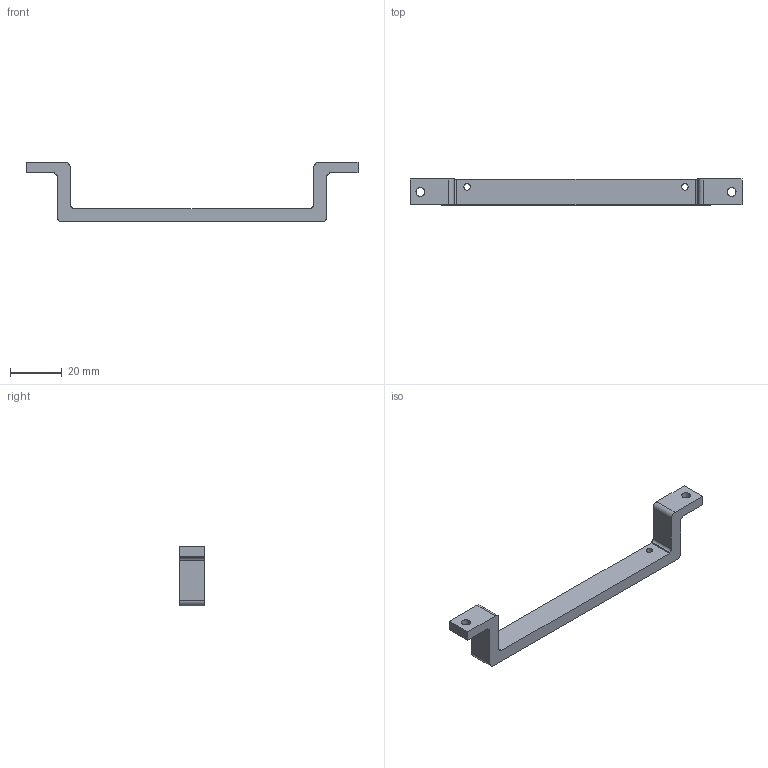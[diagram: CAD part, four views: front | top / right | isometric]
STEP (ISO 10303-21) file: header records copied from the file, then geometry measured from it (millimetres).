
FILE_DESCRIPTION(/* description */ (''),/* implementation_level */ '2;1');
FILE_NAME(/* name */ 'CWC-SE0007-P04_Torque Sensor Tub TD70.stp',/* time_stamp */ '2026-04-28T16:13:38+02:00',/* author */ (''),/* organization */ (''),/* preprocessor_version */ 'ST-DEVELOPER v18.1',/* originating_system */ 'SIEMENS PLM Software NX 1988',/* authorisation */ '');
FILE_SCHEMA (('AUTOMOTIVE_DESIGN { 1 0 10303 214 3 1 1 1 }'));
Length unit declared in the file: millimetre
Products named in the file (1): anto6558201A7ewe
Bounding box: 128 x 10 x 23 mm (x, y, z)
Volume: 7832.5 mm3; surface area: 5027.4 mm2
Topology: 1 solids, 1 shells, 30 faces, 88 edges, 60 vertices
Faces by surface type: plane 18, cylinder 12
Full cylindrical faces by diameter (mm): 2.5 x2, 3.4 x2
Entity records: 1000 total; most frequent: CARTESIAN_POINT 167, DIRECTION 166, ORIENTED_EDGE 160, EDGE_CURVE 80, VERTEX_POINT 56, LINE 56, VECTOR 56, AXIS2_PLACEMENT_3D 55
